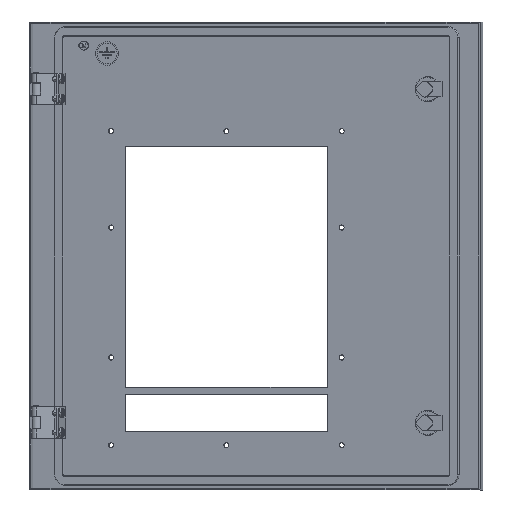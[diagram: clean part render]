
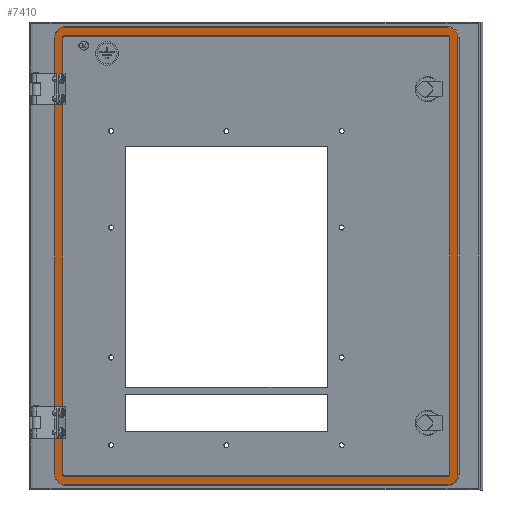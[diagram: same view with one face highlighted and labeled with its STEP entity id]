
A CAD part, left-side view. The second image highlights one B-rep face of the part: STEP entity #7410.
In plain terms, the highlighted planar face has unit normal (-0.966, 0.259, 0).
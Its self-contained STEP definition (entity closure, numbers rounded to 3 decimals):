
#94 = EDGE_CURVE ( 'NONE', #13919, #1828, #13364, .T. ) ;
#213 = CIRCLE ( 'NONE', #3045, 2.804 ) ;
#466 = ORIENTED_EDGE ( 'NONE', *, *, #5562, .F. ) ;
#607 = DIRECTION ( 'NONE',  ( 0.966, -0.259, 0. ) ) ;
#741 = CARTESIAN_POINT ( 'NONE',  ( -25.838, -70.539, -255.804 ) ) ;
#915 = DIRECTION ( 'NONE',  ( -0.966, 0.259, 0. ) ) ;
#1828 = VERTEX_POINT ( 'NONE', #13099 ) ;
#1906 = CARTESIAN_POINT ( 'NONE',  ( -25.113, -67.83, 303. ) ) ;
#2106 = VECTOR ( 'NONE', #5151, 1000. ) ;
#2234 = DIRECTION ( 'NONE',  ( -0.259, -0.966, 0. ) ) ;
#2537 = DIRECTION ( 'NONE',  ( -0.966, 0.259, 0. ) ) ;
#2576 = DIRECTION ( 'NONE',  ( 0.259, 0.966, 0. ) ) ;
#2605 = VERTEX_POINT ( 'NONE', #17319 ) ;
#2666 = CARTESIAN_POINT ( 'NONE',  ( -159.831, -571.111, 303. ) ) ;
#2821 = AXIS2_PLACEMENT_3D ( 'NONE', #20416, #3557, #20205 ) ;
#2842 = CARTESIAN_POINT ( 'NONE',  ( -159.831, -571.111, 303. ) ) ;
#2896 = DIRECTION ( 'NONE',  ( -0.259, -0.966, 0. ) ) ;
#2969 = DIRECTION ( 'NONE',  ( -0.966, 0.259, 0. ) ) ;
#3045 = AXIS2_PLACEMENT_3D ( 'NONE', #15681, #915, #2576 ) ;
#3557 = DIRECTION ( 'NONE',  ( 0.966, -0.259, 0. ) ) ;
#3564 = VECTOR ( 'NONE', #7457, 1000. ) ;
#4104 = CIRCLE ( 'NONE', #16422, 2.804 ) ;
#4117 = DIRECTION ( 'NONE',  ( 0., 0., -1. ) ) ;
#4651 = CARTESIAN_POINT ( 'NONE',  ( -25.838, -70.539, 316.196 ) ) ;
#4752 = DIRECTION ( 'NONE',  ( -0.966, 0.259, 0. ) ) ;
#4825 = EDGE_CURVE ( 'NONE', #21778, #13919, #15181, .T. ) ;
#5151 = DIRECTION ( 'NONE',  ( 0., 0., 1. ) ) ;
#5269 = CARTESIAN_POINT ( 'NONE',  ( -156.419, -558.364, 303. ) ) ;
#5304 = ORIENTED_EDGE ( 'NONE', *, *, #4825, .F. ) ;
#5491 = VERTEX_POINT ( 'NONE', #19204 ) ;
#5540 = CIRCLE ( 'NONE', #7640, 2.804 ) ;
#5562 = EDGE_CURVE ( 'NONE', #1828, #14218, #19537, .T. ) ;
#5830 = EDGE_CURVE ( 'NONE', #5491, #14145, #16836, .T. ) ;
#6051 = CARTESIAN_POINT ( 'NONE',  ( -25.838, -70.539, -253. ) ) ;
#6165 = EDGE_CURVE ( 'NONE', #14218, #11850, #18949, .T. ) ;
#6265 = ORIENTED_EDGE ( 'NONE', *, *, #9491, .F. ) ;
#6272 = CARTESIAN_POINT ( 'NONE',  ( -157.144, -561.073, -253. ) ) ;
#6336 = AXIS2_PLACEMENT_3D ( 'NONE', #16640, #18398, #8346 ) ;
#6462 = EDGE_CURVE ( 'NONE', #11850, #2605, #21225, .T. ) ;
#6778 = DIRECTION ( 'NONE',  ( 0.259, 0.966, 0. ) ) ;
#7379 = CARTESIAN_POINT ( 'NONE',  ( -156.419, -558.364, 303. ) ) ;
#7410 = ADVANCED_FACE ( 'NONE', ( #17064, #16845 ), #14974, .T. ) ;
#7457 = DIRECTION ( 'NONE',  ( -0.259, -0.966, 0. ) ) ;
#7506 = VECTOR ( 'NONE', #19160, 1000. ) ;
#7640 = AXIS2_PLACEMENT_3D ( 'NONE', #19855, #4752, #11461 ) ;
#7848 = EDGE_LOOP ( 'NONE', ( #15661, #16324, #18855, #15853, #18925, #16062, #6265, #19319 ) ) ;
#8195 = VERTEX_POINT ( 'NONE', #8527 ) ;
#8346 = DIRECTION ( 'NONE',  ( 0., 0., 1. ) ) ;
#8412 = CARTESIAN_POINT ( 'NONE',  ( -25.838, -70.539, -266.196 ) ) ;
#8527 = CARTESIAN_POINT ( 'NONE',  ( -25.113, -67.83, -253. ) ) ;
#8626 = CARTESIAN_POINT ( 'NONE',  ( -156.419, -558.364, -255.804 ) ) ;
#8837 = CARTESIAN_POINT ( 'NONE',  ( -156.419, -558.364, -253. ) ) ;
#9072 = CIRCLE ( 'NONE', #18934, 13.196 ) ;
#9200 = VECTOR ( 'NONE', #6778, 1000. ) ;
#9422 = AXIS2_PLACEMENT_3D ( 'NONE', #5269, #16722, #21568 ) ;
#9491 = EDGE_CURVE ( 'NONE', #19738, #8195, #15478, .T. ) ;
#9541 = DIRECTION ( 'NONE',  ( 0., 0., -1. ) ) ;
#9922 = EDGE_CURVE ( 'NONE', #2605, #11695, #13049, .T. ) ;
#9994 = CARTESIAN_POINT ( 'NONE',  ( -157.144, -561.073, 303. ) ) ;
#10190 = EDGE_CURVE ( 'NONE', #20457, #14722, #12619, .T. ) ;
#10498 = CARTESIAN_POINT ( 'NONE',  ( -25.113, -67.83, 25. ) ) ;
#10527 = EDGE_CURVE ( 'NONE', #11695, #19158, #18557, .T. ) ;
#11384 = CARTESIAN_POINT ( 'NONE',  ( -25.838, -70.539, -255.804 ) ) ;
#11452 = EDGE_CURVE ( 'NONE', #8195, #20457, #4104, .T. ) ;
#11461 = DIRECTION ( 'NONE',  ( 0.259, 0.966, 0. ) ) ;
#11695 = VERTEX_POINT ( 'NONE', #18007 ) ;
#11850 = VERTEX_POINT ( 'NONE', #2666 ) ;
#11924 = VECTOR ( 'NONE', #9541, 1000. ) ;
#12069 = EDGE_CURVE ( 'NONE', #14722, #18198, #5540, .T. ) ;
#12297 = VECTOR ( 'NONE', #13318, 1000. ) ;
#12619 = LINE ( 'NONE', #741, #3564 ) ;
#12729 = ORIENTED_EDGE ( 'NONE', *, *, #10527, .F. ) ;
#12769 = EDGE_CURVE ( 'NONE', #19158, #21778, #9072, .T. ) ;
#12824 = EDGE_LOOP ( 'NONE', ( #5304, #19517, #12729, #19790, #18349, #13272, #466, #16545 ) ) ;
#13049 = CIRCLE ( 'NONE', #19746, 13.196 ) ;
#13099 = CARTESIAN_POINT ( 'NONE',  ( -25.838, -70.539, 316.196 ) ) ;
#13272 = ORIENTED_EDGE ( 'NONE', *, *, #6165, .F. ) ;
#13318 = DIRECTION ( 'NONE',  ( 0., 0., 1. ) ) ;
#13364 = CIRCLE ( 'NONE', #2821, 13.196 ) ;
#13919 = VERTEX_POINT ( 'NONE', #21471 ) ;
#14019 = CARTESIAN_POINT ( 'NONE',  ( -22.425, -57.791, -253. ) ) ;
#14145 = VERTEX_POINT ( 'NONE', #15964 ) ;
#14201 = DIRECTION ( 'NONE',  ( 0.259, 0.966, 0. ) ) ;
#14218 = VERTEX_POINT ( 'NONE', #14403 ) ;
#14346 = VECTOR ( 'NONE', #2896, 1000. ) ;
#14403 = CARTESIAN_POINT ( 'NONE',  ( -156.419, -558.364, 316.196 ) ) ;
#14722 = VERTEX_POINT ( 'NONE', #8626 ) ;
#14801 = VECTOR ( 'NONE', #4117, 1000. ) ;
#14974 = PLANE ( 'NONE',  #6336 ) ;
#15181 = LINE ( 'NONE', #16950, #2106 ) ;
#15415 = AXIS2_PLACEMENT_3D ( 'NONE', #7379, #2537, #14201 ) ;
#15478 = LINE ( 'NONE', #10498, #14801 ) ;
#15661 = ORIENTED_EDGE ( 'NONE', *, *, #17366, .F. ) ;
#15681 = CARTESIAN_POINT ( 'NONE',  ( -25.838, -70.539, 303. ) ) ;
#15853 = ORIENTED_EDGE ( 'NONE', *, *, #12069, .F. ) ;
#15964 = CARTESIAN_POINT ( 'NONE',  ( -156.419, -558.364, 305.804 ) ) ;
#16062 = ORIENTED_EDGE ( 'NONE', *, *, #11452, .F. ) ;
#16266 = VERTEX_POINT ( 'NONE', #17336 ) ;
#16324 = ORIENTED_EDGE ( 'NONE', *, *, #5830, .F. ) ;
#16422 = AXIS2_PLACEMENT_3D ( 'NONE', #6051, #2969, #19503 ) ;
#16545 = ORIENTED_EDGE ( 'NONE', *, *, #94, .F. ) ;
#16640 = CARTESIAN_POINT ( 'NONE',  ( -6.491, 1.737, 0. ) ) ;
#16658 = EDGE_CURVE ( 'NONE', #16266, #19738, #213, .T. ) ;
#16722 = DIRECTION ( 'NONE',  ( 0.966, -0.259, 0. ) ) ;
#16836 = CIRCLE ( 'NONE', #15415, 2.804 ) ;
#16845 = FACE_BOUND ( 'NONE', #7848, .T. ) ;
#16950 = CARTESIAN_POINT ( 'NONE',  ( -22.425, -57.791, 25. ) ) ;
#16967 = LINE ( 'NONE', #9994, #12297 ) ;
#17064 = FACE_OUTER_BOUND ( 'NONE', #12824, .T. ) ;
#17319 = CARTESIAN_POINT ( 'NONE',  ( -159.831, -571.111, -253. ) ) ;
#17336 = CARTESIAN_POINT ( 'NONE',  ( -25.838, -70.539, 305.804 ) ) ;
#17337 = DIRECTION ( 'NONE',  ( 0.966, -0.259, 0. ) ) ;
#17366 = EDGE_CURVE ( 'NONE', #14145, #16266, #19260, .T. ) ;
#18007 = CARTESIAN_POINT ( 'NONE',  ( -156.419, -558.364, -266.196 ) ) ;
#18198 = VERTEX_POINT ( 'NONE', #6272 ) ;
#18223 = EDGE_CURVE ( 'NONE', #18198, #5491, #16967, .T. ) ;
#18349 = ORIENTED_EDGE ( 'NONE', *, *, #6462, .F. ) ;
#18398 = DIRECTION ( 'NONE',  ( -0.966, 0.259, 0. ) ) ;
#18557 = LINE ( 'NONE', #8412, #9200 ) ;
#18855 = ORIENTED_EDGE ( 'NONE', *, *, #18223, .F. ) ;
#18893 = DIRECTION ( 'NONE',  ( -0.259, -0.966, 0. ) ) ;
#18925 = ORIENTED_EDGE ( 'NONE', *, *, #10190, .F. ) ;
#18934 = AXIS2_PLACEMENT_3D ( 'NONE', #20449, #607, #18893 ) ;
#18949 = CIRCLE ( 'NONE', #9422, 13.196 ) ;
#19158 = VERTEX_POINT ( 'NONE', #21536 ) ;
#19160 = DIRECTION ( 'NONE',  ( 0.259, 0.966, 0. ) ) ;
#19204 = CARTESIAN_POINT ( 'NONE',  ( -157.144, -561.073, 303. ) ) ;
#19260 = LINE ( 'NONE', #20807, #7506 ) ;
#19319 = ORIENTED_EDGE ( 'NONE', *, *, #16658, .F. ) ;
#19503 = DIRECTION ( 'NONE',  ( 0.259, 0.966, 0. ) ) ;
#19517 = ORIENTED_EDGE ( 'NONE', *, *, #12769, .F. ) ;
#19537 = LINE ( 'NONE', #4651, #14346 ) ;
#19738 = VERTEX_POINT ( 'NONE', #1906 ) ;
#19746 = AXIS2_PLACEMENT_3D ( 'NONE', #8837, #17337, #2234 ) ;
#19790 = ORIENTED_EDGE ( 'NONE', *, *, #9922, .F. ) ;
#19855 = CARTESIAN_POINT ( 'NONE',  ( -156.419, -558.364, -253. ) ) ;
#20205 = DIRECTION ( 'NONE',  ( -0.259, -0.966, 0. ) ) ;
#20416 = CARTESIAN_POINT ( 'NONE',  ( -25.838, -70.539, 303. ) ) ;
#20449 = CARTESIAN_POINT ( 'NONE',  ( -25.838, -70.539, -253. ) ) ;
#20457 = VERTEX_POINT ( 'NONE', #11384 ) ;
#20807 = CARTESIAN_POINT ( 'NONE',  ( -25.838, -70.539, 305.804 ) ) ;
#21225 = LINE ( 'NONE', #2842, #11924 ) ;
#21471 = CARTESIAN_POINT ( 'NONE',  ( -22.425, -57.791, 303. ) ) ;
#21536 = CARTESIAN_POINT ( 'NONE',  ( -25.838, -70.539, -266.196 ) ) ;
#21568 = DIRECTION ( 'NONE',  ( -0.259, -0.966, 0. ) ) ;
#21778 = VERTEX_POINT ( 'NONE', #14019 ) ;
